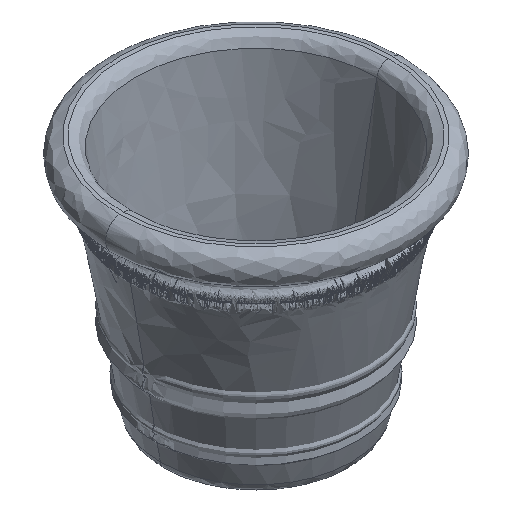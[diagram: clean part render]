
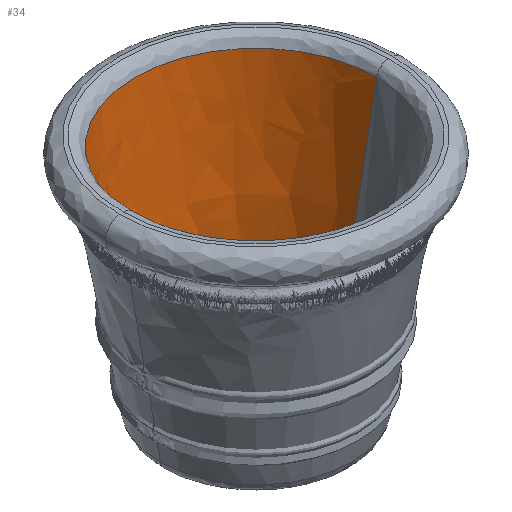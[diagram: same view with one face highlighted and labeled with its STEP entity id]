
A CAD part, isometric view. The second image highlights one B-rep face of the part: STEP entity #34.
In plain terms, the highlighted free-form (B-spline) face has degree [2, 1] with [5, 2] control points.
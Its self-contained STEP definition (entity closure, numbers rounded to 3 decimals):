
#34=ADVANCED_FACE('',(#56),#333,.T.);
#56=FACE_OUTER_BOUND('',#80,.T.);
#80=EDGE_LOOP('',(#156,#157,#158,#159));
#156=ORIENTED_EDGE('',*,*,#209,.T.);
#157=ORIENTED_EDGE('',*,*,#184,.T.);
#158=ORIENTED_EDGE('',*,*,#207,.F.);
#159=ORIENTED_EDGE('',*,*,#208,.F.);
#184=EDGE_CURVE('',#297,#295,#216,.T.);
#207=EDGE_CURVE('',#309,#295,#253,.T.);
#208=EDGE_CURVE('',#310,#309,#219,.T.);
#209=EDGE_CURVE('',#310,#297,#254,.T.);
#216=B_SPLINE_CURVE_WITH_KNOTS('',1,(#1511,#1512),.UNSPECIFIED.,.F.,.F.,
(2,2),(24.978,573.839),.UNSPECIFIED.);
#219=B_SPLINE_CURVE_WITH_KNOTS('',1,(#1650,#1651),.UNSPECIFIED.,.F.,.F.,
(2,2),(24.978,573.839),.UNSPECIFIED.);
#253=TRIMMED_CURVE($,#283,(#1648),(#1649),.T.,.CARTESIAN.);
#254=TRIMMED_CURVE($,#284,(#1653),(#1654),.T.,.CARTESIAN.);
#283=CIRCLE('',#453,156.852);
#284=CIRCLE('',#454,240.894);
#295=VERTEX_POINT('',#1383);
#297=VERTEX_POINT('',#1385);
#309=VERTEX_POINT('',#1397);
#310=VERTEX_POINT('',#1398);
#333=(
BOUNDED_SURFACE()
B_SPLINE_SURFACE(2,1,((#1337,#1338),(#1339,#1340),(#1341,#1342),(#1343,
#1344),(#1345,#1346)),.UNSPECIFIED.,.F.,.F.,.F.)
B_SPLINE_SURFACE_WITH_KNOTS((3,2,3),(2,2),(934.624,1401.936,
1869.248),(0.,573.839),.UNSPECIFIED.)
GEOMETRIC_REPRESENTATION_ITEM()
RATIONAL_B_SPLINE_SURFACE(((1.,1.),(0.707,0.707),
(1.,1.),(0.707,0.707),(1.,1.)))
REPRESENTATION_ITEM('')
SURFACE()
);
#453=AXIS2_PLACEMENT_3D($,#1647,#515,#516);
#454=AXIS2_PLACEMENT_3D($,#1652,#517,#518);
#515=DIRECTION('',(0.,0.,1.));
#516=DIRECTION('',(1.,0.,0.));
#517=DIRECTION('',(0.,0.,1.));
#518=DIRECTION('',(1.,0.,0.));
#1337=CARTESIAN_POINT('',(1849.895,0.,489.437));
#1338=CARTESIAN_POINT('',(1762.028,0.,28.715));
#1339=CARTESIAN_POINT('',(1849.895,244.719,489.437));
#1340=CARTESIAN_POINT('',(1762.028,156.852,28.715));
#1341=CARTESIAN_POINT('',(1605.177,244.719,489.437));
#1342=CARTESIAN_POINT('',(1605.177,156.852,28.715));
#1343=CARTESIAN_POINT('',(1360.458,244.719,489.437));
#1344=CARTESIAN_POINT('',(1448.325,156.852,28.715));
#1345=CARTESIAN_POINT('',(1360.458,0.,489.437));
#1346=CARTESIAN_POINT('',(1448.325,0.,28.715));
#1383=CARTESIAN_POINT('',(1448.325,0.,28.715));
#1385=CARTESIAN_POINT('',(1364.283,0.,469.383));
#1397=CARTESIAN_POINT('',(1762.028,0.,28.715));
#1398=CARTESIAN_POINT('',(1846.071,0.,469.383));
#1511=CARTESIAN_POINT('',(1364.283,0.,469.383));
#1512=CARTESIAN_POINT('',(1448.325,0.,28.715));
#1647=CARTESIAN_POINT('',(1605.177,0.,28.715));
#1648=CARTESIAN_POINT('',(1762.028,0.,28.715));
#1649=CARTESIAN_POINT('',(1448.325,0.,28.715));
#1650=CARTESIAN_POINT('',(1846.071,0.,469.383));
#1651=CARTESIAN_POINT('',(1762.028,0.,28.715));
#1652=CARTESIAN_POINT('',(1605.177,0.,469.383));
#1653=CARTESIAN_POINT('',(1846.071,0.,469.383));
#1654=CARTESIAN_POINT('',(1364.283,0.,469.383));
